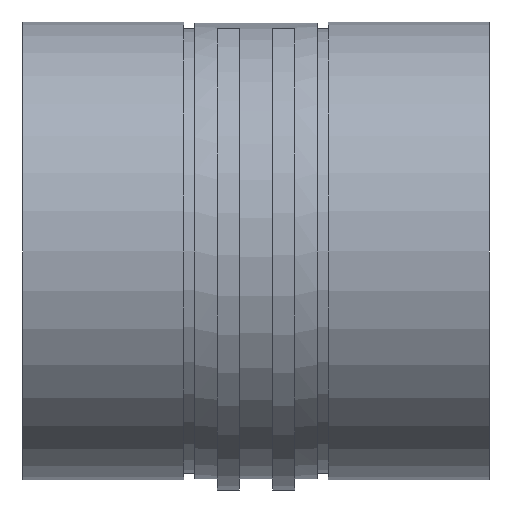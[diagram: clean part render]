
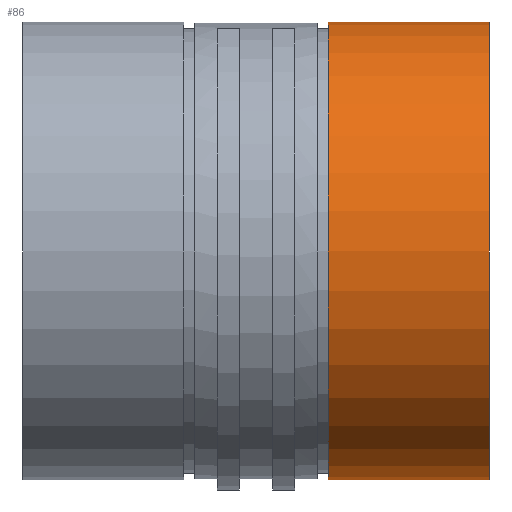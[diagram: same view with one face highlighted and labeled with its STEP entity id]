
A CAD part, front view. The second image highlights one B-rep face of the part: STEP entity #86.
In plain terms, the highlighted cylindrical face has radius 20.6 mm (diameter 41.2 mm), a full revolution.
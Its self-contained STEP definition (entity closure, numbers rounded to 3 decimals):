
#86 = ADVANCED_FACE( '', ( #130, #131 ), #132, .T. );
#130 = FACE_OUTER_BOUND( '', #200, .T. );
#131 = FACE_OUTER_BOUND( '', #201, .T. );
#132 = CYLINDRICAL_SURFACE( '', #202, 20.6 );
#200 = EDGE_LOOP( '', ( #319 ) );
#201 = EDGE_LOOP( '', ( #320 ) );
#202 = AXIS2_PLACEMENT_3D( '', #321, #322, #323 );
#319 = ORIENTED_EDGE( '', *, *, #429, .T. );
#320 = ORIENTED_EDGE( '', *, *, #425, .F. );
#321 = CARTESIAN_POINT( '', ( -60., 0., 0. ) );
#322 = DIRECTION( '', ( 1., 0., 0. ) );
#323 = DIRECTION( '', ( 0., 0., 1. ) );
#425 = EDGE_CURVE( '', #485, #485, #486, .T. );
#429 = EDGE_CURVE( '', #490, #490, #491, .T. );
#485 = VERTEX_POINT( '', #570 );
#486 = CIRCLE( '', #571, 20.6 );
#490 = VERTEX_POINT( '', #578 );
#491 = CIRCLE( '', #579, 20.6 );
#570 = CARTESIAN_POINT( '', ( 6.5, 0., 20.6 ) );
#571 = AXIS2_PLACEMENT_3D( '', #649, #650, #651 );
#578 = CARTESIAN_POINT( '', ( 21., 0., 20.6 ) );
#579 = AXIS2_PLACEMENT_3D( '', #655, #656, #657 );
#649 = CARTESIAN_POINT( '', ( 6.5, 0., 0. ) );
#650 = DIRECTION( '', ( -1., 0., 0. ) );
#651 = DIRECTION( '', ( 0., 0., 1. ) );
#655 = CARTESIAN_POINT( '', ( 21., 0., 0. ) );
#656 = DIRECTION( '', ( -1., 0., 0. ) );
#657 = DIRECTION( '', ( 0., 0., 1. ) );
